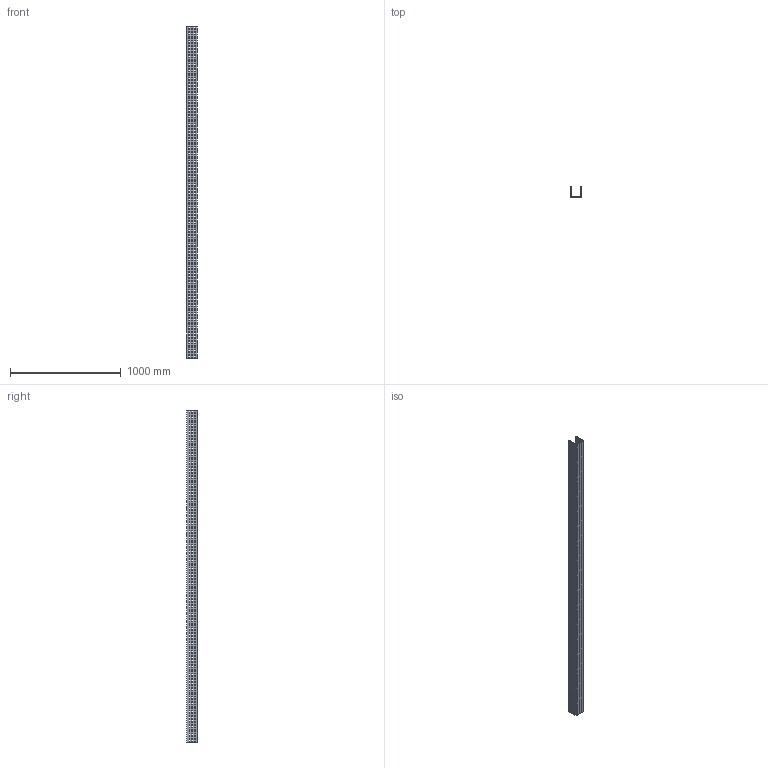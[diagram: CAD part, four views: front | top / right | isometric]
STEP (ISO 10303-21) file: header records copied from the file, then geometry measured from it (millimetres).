
FILE_DESCRIPTION (( 'STEP AP214' ), '1' );
FILE_NAME ('01B3I092.step', '2025-02-21T10:23:00', ( '' ), ( '' ), 'SwSTEP 2.0', 'SolidWorks 2023', '' );
FILE_SCHEMA (( 'AUTOMOTIVE_DESIGN' ));
Products named in the file (1): 01B3I092
Bounding box: 92.5 x 92.5 x 3000 mm (x, y, z)
Volume: 2443350 mm3; surface area: 1564245.5 mm2
Topology: 1 solids, 1 shells, 2602 faces, 7800 edges, 5200 vertices
Faces by surface type: plane 2602
Entity records: 88439 total; most frequent: CARTESIAN_POINT 15603, ORIENTED_EDGE 15600, DIRECTION 13006, VECTOR 7800, EDGE_CURVE 7800, LINE 7800, VERTEX_POINT 5200, EDGE_LOOP 3898
